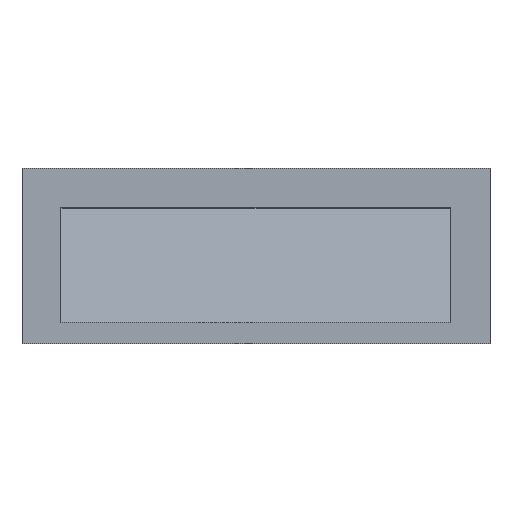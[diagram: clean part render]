
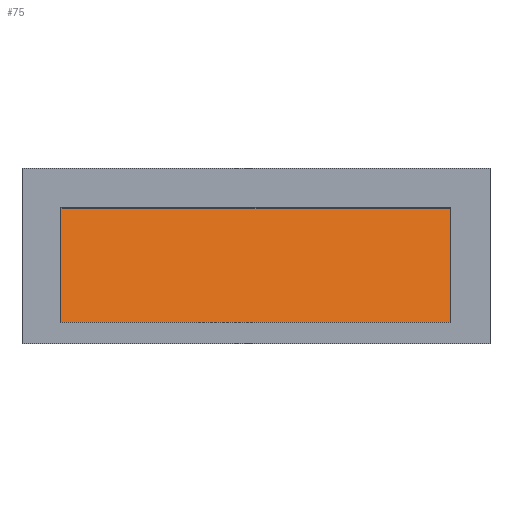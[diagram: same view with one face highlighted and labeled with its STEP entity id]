
A CAD part, top view. The second image highlights one B-rep face of the part: STEP entity #75.
In plain terms, the highlighted planar face has unit normal (0, 0.233, 0.972).
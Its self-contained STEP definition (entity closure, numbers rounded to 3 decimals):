
#75=ADVANCED_FACE('',(#174),#127,.F.);
#127=PLANE('',#995);
#174=FACE_OUTER_BOUND('',#218,.T.);
#218=EDGE_LOOP('',(#314,#315,#316,#317,#318,#319));
#314=ORIENTED_EDGE('',*,*,#660,.T.);
#315=ORIENTED_EDGE('',*,*,#661,.F.);
#316=ORIENTED_EDGE('',*,*,#649,.F.);
#317=ORIENTED_EDGE('',*,*,#662,.T.);
#318=ORIENTED_EDGE('',*,*,#663,.T.);
#319=ORIENTED_EDGE('',*,*,#664,.F.);
#560=VERTEX_POINT('',#1343);
#561=VERTEX_POINT('',#1345);
#570=VERTEX_POINT('',#1371);
#571=VERTEX_POINT('',#1372);
#572=VERTEX_POINT('',#1375);
#573=VERTEX_POINT('',#1377);
#649=EDGE_CURVE('',#560,#561,#779,.T.);
#660=EDGE_CURVE('',#570,#571,#789,.T.);
#661=EDGE_CURVE('',#561,#571,#790,.T.);
#662=EDGE_CURVE('',#560,#572,#791,.T.);
#663=EDGE_CURVE('',#572,#573,#792,.T.);
#664=EDGE_CURVE('',#570,#573,#793,.T.);
#779=LINE('',#1344,#897);
#789=LINE('',#1370,#907);
#790=LINE('',#1373,#908);
#791=LINE('',#1374,#909);
#792=LINE('',#1376,#910);
#793=LINE('',#1378,#911);
#897=VECTOR('',#1083,1.);
#907=VECTOR('',#1099,1.);
#908=VECTOR('',#1100,1.);
#909=VECTOR('',#1101,1.);
#910=VECTOR('',#1102,1.);
#911=VECTOR('',#1103,1.);
#995=AXIS2_PLACEMENT_3D('',#1379,#1104,#1105);
#1083=DIRECTION('',(0.,-0.972,0.233));
#1099=DIRECTION('',(0.,-0.972,0.233));
#1100=DIRECTION('',(-1.,0.,0.));
#1101=DIRECTION('',(-1.,0.,0.));
#1102=DIRECTION('',(-1.,0.,0.));
#1103=DIRECTION('',(1.,0.,0.));
#1104=DIRECTION('',(0.,-0.233,-0.972));
#1105=DIRECTION('',(0.,0.972,-0.233));
#1343=CARTESIAN_POINT('',(500.,25.,-75.));
#1344=CARTESIAN_POINT('',(500.,25.,-75.));
#1345=CARTESIAN_POINT('',(500.,-267.,-5.));
#1370=CARTESIAN_POINT('',(-500.,25.,-75.));
#1371=CARTESIAN_POINT('',(-500.,25.,-75.));
#1372=CARTESIAN_POINT('',(-500.,-267.,-5.));
#1373=CARTESIAN_POINT('',(500.,-267.,-5.));
#1374=CARTESIAN_POINT('',(500.,25.,-75.));
#1375=CARTESIAN_POINT('',(490.,25.,-75.));
#1376=CARTESIAN_POINT('',(500.,25.,-75.));
#1377=CARTESIAN_POINT('',(-490.,25.,-75.));
#1378=CARTESIAN_POINT('',(-500.,25.,-75.));
#1379=CARTESIAN_POINT('',(500.,25.,-75.));
